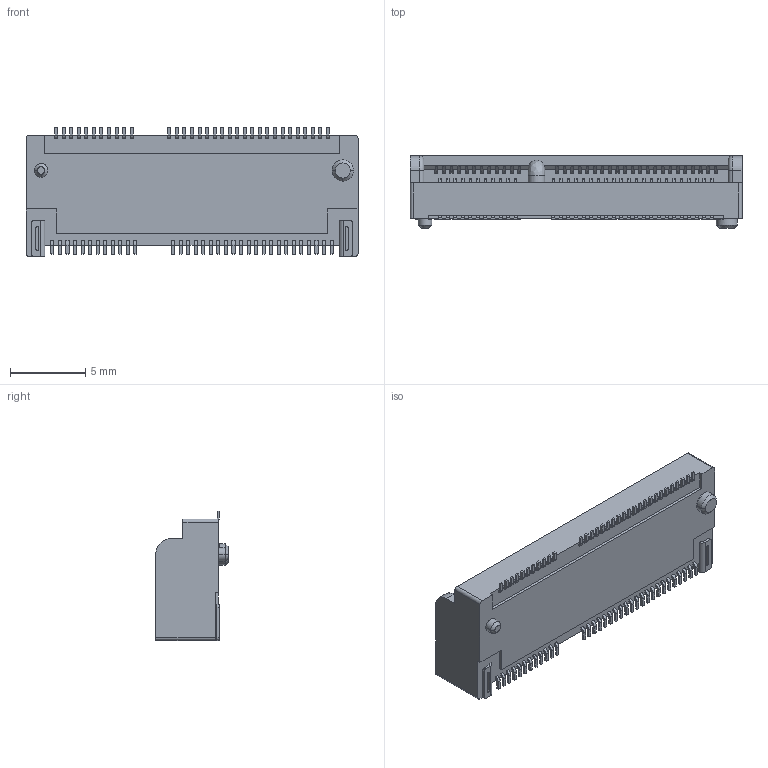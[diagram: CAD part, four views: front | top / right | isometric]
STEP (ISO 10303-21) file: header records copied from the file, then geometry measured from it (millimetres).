
FILE_DESCRIPTION (( 'STEP AP214' ), '1' );
FILE_NAME ('reoriented-MDT420E02001.STEP', '2023-07-17T16:45:46', ( '' ), ( '' ), 'SwSTEP 2.0', 'SolidWorks 2021', '' );
FILE_SCHEMA (( 'AUTOMOTIVE_DESIGN' ));
Length unit declared in the file: millimetre
Products named in the file (1): reoriented-MDT420E02001
Bounding box: 22 x 4.8 x 8.55 mm (x, y, z)
Volume: 544.4 mm3; surface area: 733.5 mm2
Topology: 1 solids, 1 shells, 1558 faces, 4414 edges, 2941 vertices
Faces by surface type: plane 1181, cylinder 368, cone 6, torus 2, bspline 1
Entity records: 50641 total; most frequent: CARTESIAN_POINT 9355, ORIENTED_EDGE 8828, DIRECTION 8144, EDGE_CURVE 4414, VECTOR 3526, LINE 3526, VERTEX_POINT 2941, AXIS2_PLACEMENT_3D 2309
